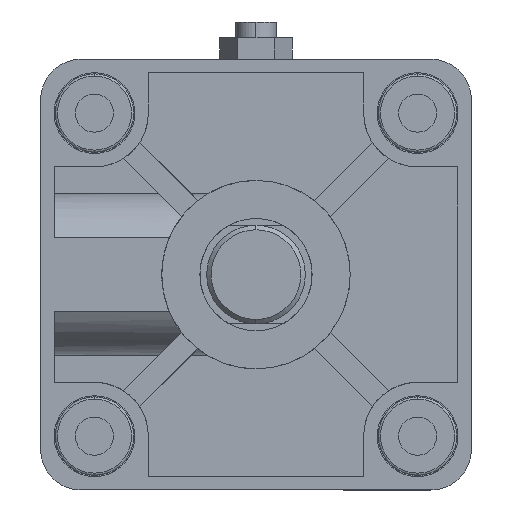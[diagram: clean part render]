
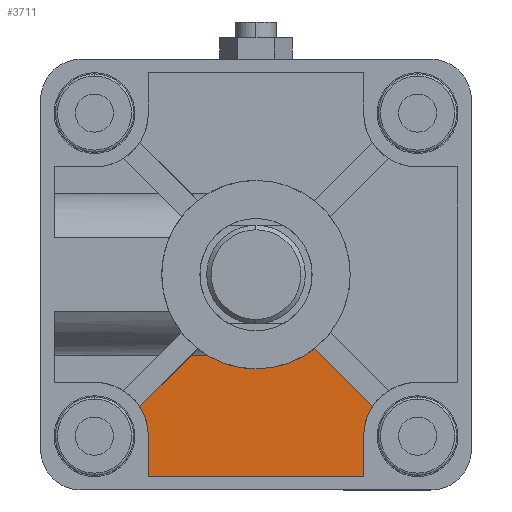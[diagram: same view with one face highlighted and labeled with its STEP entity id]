
A CAD part, left-side view. The second image highlights one B-rep face of the part: STEP entity #3711.
In plain terms, the highlighted planar face has unit normal (-1, 0, 0) as drawn and (1, 0, 0) by its records, which use the part's own axes.
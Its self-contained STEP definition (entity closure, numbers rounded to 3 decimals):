
#22 = VERTEX_POINT ( 'NONE', #826 ) ;
#38 = CARTESIAN_POINT ( 'NONE',  ( -3., -25.933, 29.469 ) ) ;
#45 = CARTESIAN_POINT ( 'NONE',  ( -3., 24., 45. ) ) ;
#59 = CARTESIAN_POINT ( 'NONE',  ( -3., -24., 36. ) ) ;
#83 = CARTESIAN_POINT ( 'NONE',  ( -3., 0., 0. ) ) ;
#106 = CIRCLE ( 'NONE', #5808, 12. ) ;
#149 = EDGE_CURVE ( 'NONE', #3031, #1931, #7730, .T. ) ;
#366 = VERTEX_POINT ( 'NONE', #7690 ) ;
#425 = EDGE_CURVE ( 'NONE', #3875, #1328, #3637, .T. ) ;
#469 = ORIENTED_EDGE ( 'NONE', *, *, #6237, .T. ) ;
#493 = EDGE_CURVE ( 'NONE', #7595, #5361, #936, .T. ) ;
#545 = VECTOR ( 'NONE', #5423, 1000. ) ;
#826 = CARTESIAN_POINT ( 'NONE',  ( -3., 14.213, 17.748 ) ) ;
#862 = DIRECTION ( 'NONE',  ( 0., 0., -1. ) ) ;
#936 = LINE ( 'NONE', #2787, #8663 ) ;
#1066 = CARTESIAN_POINT ( 'NONE',  ( -3., -36., 36. ) ) ;
#1083 = ORIENTED_EDGE ( 'NONE', *, *, #2662, .F. ) ;
#1179 = EDGE_CURVE ( 'NONE', #2488, #22, #3389, .T. ) ;
#1328 = VERTEX_POINT ( 'NONE', #2971 ) ;
#1363 = ORIENTED_EDGE ( 'NONE', *, *, #7868, .T. ) ;
#1438 = DIRECTION ( 'NONE',  ( 0., -1., 0. ) ) ;
#1461 = DIRECTION ( 'NONE',  ( -1., 0., 0. ) ) ;
#1764 = DIRECTION ( 'NONE',  ( 0., 0., -1. ) ) ;
#1805 = ORIENTED_EDGE ( 'NONE', *, *, #425, .T. ) ;
#1856 = VECTOR ( 'NONE', #7832, 1000. ) ;
#1898 = EDGE_CURVE ( 'NONE', #2488, #3031, #106, .T. ) ;
#1931 = VERTEX_POINT ( 'NONE', #45 ) ;
#2004 = LINE ( 'NONE', #8203, #7937 ) ;
#2058 = FACE_OUTER_BOUND ( 'NONE', #3122, .T. ) ;
#2361 = AXIS2_PLACEMENT_3D ( 'NONE', #7685, #5527, #7402 ) ;
#2488 = VERTEX_POINT ( 'NONE', #8850 ) ;
#2543 = CARTESIAN_POINT ( 'NONE',  ( -3., -1.768, 1.768 ) ) ;
#2579 = CIRCLE ( 'NONE', #3953, 12. ) ;
#2614 = VERTEX_POINT ( 'NONE', #59 ) ;
#2662 = EDGE_CURVE ( 'NONE', #5361, #2614, #2579, .T. ) ;
#2763 = CARTESIAN_POINT ( 'NONE',  ( -3., 0., 45. ) ) ;
#2764 = VECTOR ( 'NONE', #7156, 1000. ) ;
#2787 = CARTESIAN_POINT ( 'NONE',  ( -3., 1.768, 1.768 ) ) ;
#2897 = EDGE_CURVE ( 'NONE', #2614, #366, #8148, .T. ) ;
#2971 = CARTESIAN_POINT ( 'NONE',  ( -3., 11.225, 17.748 ) ) ;
#3031 = VERTEX_POINT ( 'NONE', #3687 ) ;
#3114 = AXIS2_PLACEMENT_3D ( 'NONE', #7479, #8667, #862 ) ;
#3122 = EDGE_LOOP ( 'NONE', ( #6988, #469, #1805, #3214, #7940, #4941, #7677, #1363, #5281, #1083 ) ) ;
#3214 = ORIENTED_EDGE ( 'NONE', *, *, #6151, .F. ) ;
#3257 = CARTESIAN_POINT ( 'NONE',  ( -3., 0., 21. ) ) ;
#3342 = AXIS2_PLACEMENT_3D ( 'NONE', #83, #3491, #5143 ) ;
#3389 = LINE ( 'NONE', #2543, #2764 ) ;
#3491 = DIRECTION ( 'NONE',  ( -1., 0., 0. ) ) ;
#3505 = DIRECTION ( 'NONE',  ( 0., -0.707, 0.707 ) ) ;
#3637 = CIRCLE ( 'NONE', #3342, 21. ) ;
#3687 = CARTESIAN_POINT ( 'NONE',  ( -3., 24., 36. ) ) ;
#3711 = ADVANCED_FACE ( 'NONE', ( #2058 ), #4206, .T. ) ;
#3875 = VERTEX_POINT ( 'NONE', #3257 ) ;
#3886 = DIRECTION ( 'NONE',  ( 0., 0., -1. ) ) ;
#3944 = CARTESIAN_POINT ( 'NONE',  ( -3., -24., 0. ) ) ;
#3953 = AXIS2_PLACEMENT_3D ( 'NONE', #1066, #5243, #1764 ) ;
#4206 = PLANE ( 'NONE',  #2361 ) ;
#4572 = CARTESIAN_POINT ( 'NONE',  ( -3., 24., 0. ) ) ;
#4941 = ORIENTED_EDGE ( 'NONE', *, *, #1898, .T. ) ;
#5143 = DIRECTION ( 'NONE',  ( 0., 0., -1. ) ) ;
#5243 = DIRECTION ( 'NONE',  ( 1., 0., 0. ) ) ;
#5281 = ORIENTED_EDGE ( 'NONE', *, *, #2897, .F. ) ;
#5361 = VERTEX_POINT ( 'NONE', #38 ) ;
#5423 = DIRECTION ( 'NONE',  ( 0., 0., 1. ) ) ;
#5527 = DIRECTION ( 'NONE',  ( 1., 0., 0. ) ) ;
#5808 = AXIS2_PLACEMENT_3D ( 'NONE', #7793, #1461, #3886 ) ;
#6142 = DIRECTION ( 'NONE',  ( 0., 0., 1. ) ) ;
#6151 = EDGE_CURVE ( 'NONE', #22, #1328, #2004, .T. ) ;
#6237 = EDGE_CURVE ( 'NONE', #7595, #3875, #8571, .T. ) ;
#6446 = VECTOR ( 'NONE', #6142, 1000. ) ;
#6672 = LINE ( 'NONE', #2763, #1856 ) ;
#6988 = ORIENTED_EDGE ( 'NONE', *, *, #493, .F. ) ;
#7156 = DIRECTION ( 'NONE',  ( 0., -0.707, -0.707 ) ) ;
#7402 = DIRECTION ( 'NONE',  ( 0., 0., -1. ) ) ;
#7479 = CARTESIAN_POINT ( 'NONE',  ( -3., 0., 0. ) ) ;
#7595 = VERTEX_POINT ( 'NONE', #7858 ) ;
#7677 = ORIENTED_EDGE ( 'NONE', *, *, #149, .T. ) ;
#7685 = CARTESIAN_POINT ( 'NONE',  ( -3., 0., 0. ) ) ;
#7690 = CARTESIAN_POINT ( 'NONE',  ( -3., -24., 45. ) ) ;
#7730 = LINE ( 'NONE', #4572, #6446 ) ;
#7793 = CARTESIAN_POINT ( 'NONE',  ( -3., 36., 36. ) ) ;
#7832 = DIRECTION ( 'NONE',  ( 0., -1., 0. ) ) ;
#7858 = CARTESIAN_POINT ( 'NONE',  ( -3., -12.976, 16.511 ) ) ;
#7868 = EDGE_CURVE ( 'NONE', #1931, #366, #6672, .T. ) ;
#7937 = VECTOR ( 'NONE', #1438, 1000. ) ;
#7940 = ORIENTED_EDGE ( 'NONE', *, *, #1179, .F. ) ;
#8148 = LINE ( 'NONE', #3944, #545 ) ;
#8203 = CARTESIAN_POINT ( 'NONE',  ( -3., -48.166, 17.748 ) ) ;
#8571 = CIRCLE ( 'NONE', #3114, 21. ) ;
#8663 = VECTOR ( 'NONE', #3505, 1000. ) ;
#8667 = DIRECTION ( 'NONE',  ( -1., 0., 0. ) ) ;
#8850 = CARTESIAN_POINT ( 'NONE',  ( -3., 25.933, 29.469 ) ) ;
